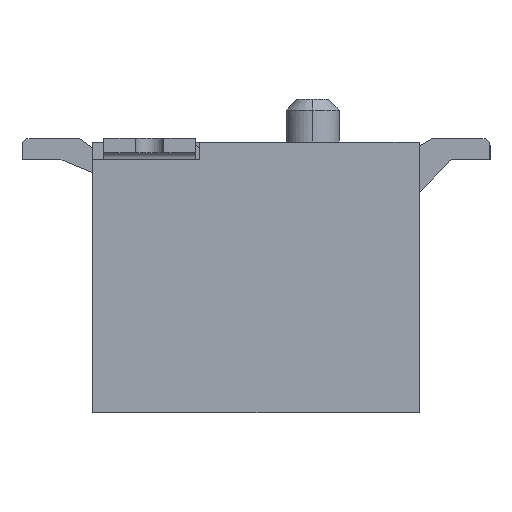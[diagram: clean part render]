
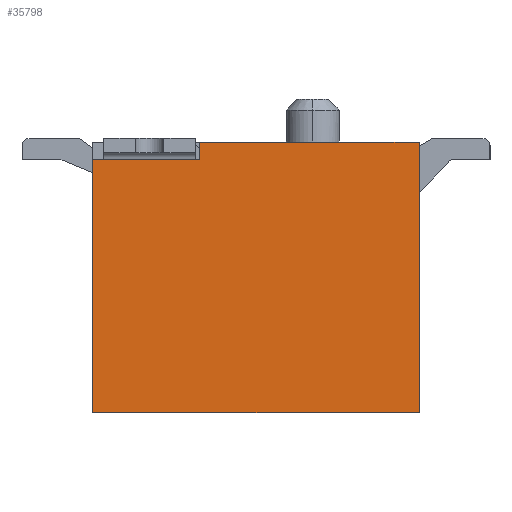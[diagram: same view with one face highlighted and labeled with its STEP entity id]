
A CAD part, left-side view. The second image highlights one B-rep face of the part: STEP entity #35798.
In plain terms, the highlighted planar face has unit normal (-1, 0, 0).
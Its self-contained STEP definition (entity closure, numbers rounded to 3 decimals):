
#1=DIRECTION('',(0.,0.,-1.));
#2=VECTOR('',#1,0.25);
#3=CARTESIAN_POINT('',(0.,-1.5,3.815));
#4=LINE('',#3,#2);
#5=DIRECTION('',(0.,-1.,0.));
#6=VECTOR('',#5,3.1);
#7=CARTESIAN_POINT('',(0.,-1.5,3.815));
#8=LINE('',#7,#6);
#9=DIRECTION('',(0.,0.,-1.));
#10=VECTOR('',#9,3.815);
#11=CARTESIAN_POINT('',(0.,-4.6,3.815));
#12=LINE('',#11,#10);
#13=DIRECTION('',(0.,1.,0.));
#14=VECTOR('',#13,4.6);
#15=CARTESIAN_POINT('',(0.,-4.6,0.));
#16=LINE('',#15,#14);
#17=DIRECTION('',(0.,0.,1.));
#18=VECTOR('',#17,3.565);
#19=CARTESIAN_POINT('',(0.,0.,0.));
#20=LINE('',#19,#18);
#21=DIRECTION('',(0.,-1.,0.));
#22=VECTOR('',#21,1.5);
#23=CARTESIAN_POINT('',(0.,0.,3.565));
#24=LINE('',#23,#22);
#27281=CARTESIAN_POINT('',(0.,-4.6,3.815));
#27282=CARTESIAN_POINT('',(0.,-4.6,0.));
#27283=VERTEX_POINT('',#27281);
#27284=VERTEX_POINT('',#27282);
#27285=CARTESIAN_POINT('',(0.,0.,0.));
#27286=VERTEX_POINT('',#27285);
#27477=CARTESIAN_POINT('',(0.,-1.5,3.815));
#27478=CARTESIAN_POINT('',(0.,-1.5,3.565));
#27479=VERTEX_POINT('',#27477);
#27480=VERTEX_POINT('',#27478);
#27481=CARTESIAN_POINT('',(0.,0.,3.565));
#27482=VERTEX_POINT('',#27481);
#35779=CARTESIAN_POINT('',(0.,0.,0.));
#35780=DIRECTION('',(1.,0.,0.));
#35781=DIRECTION('',(0.,-1.,0.));
#35782=AXIS2_PLACEMENT_3D('',#35779,#35780,#35781);
#35783=PLANE('',#35782);
#35785=ORIENTED_EDGE('',*,*,#35784,.F.);
#35787=ORIENTED_EDGE('',*,*,#35786,.T.);
#35789=ORIENTED_EDGE('',*,*,#35788,.T.);
#35791=ORIENTED_EDGE('',*,*,#35790,.T.);
#35793=ORIENTED_EDGE('',*,*,#35792,.T.);
#35795=ORIENTED_EDGE('',*,*,#35794,.T.);
#35796=EDGE_LOOP('',(#35785,#35787,#35789,#35791,#35793,#35795));
#35797=FACE_OUTER_BOUND('',#35796,.F.);
#35798=ADVANCED_FACE('',(#35797),#35783,.F.);
#35784=EDGE_CURVE('',#27479,#27480,#4,.T.);
#35786=EDGE_CURVE('',#27479,#27283,#8,.T.);
#35788=EDGE_CURVE('',#27283,#27284,#12,.T.);
#35790=EDGE_CURVE('',#27284,#27286,#16,.T.);
#35792=EDGE_CURVE('',#27286,#27482,#20,.T.);
#35794=EDGE_CURVE('',#27482,#27480,#24,.T.);
